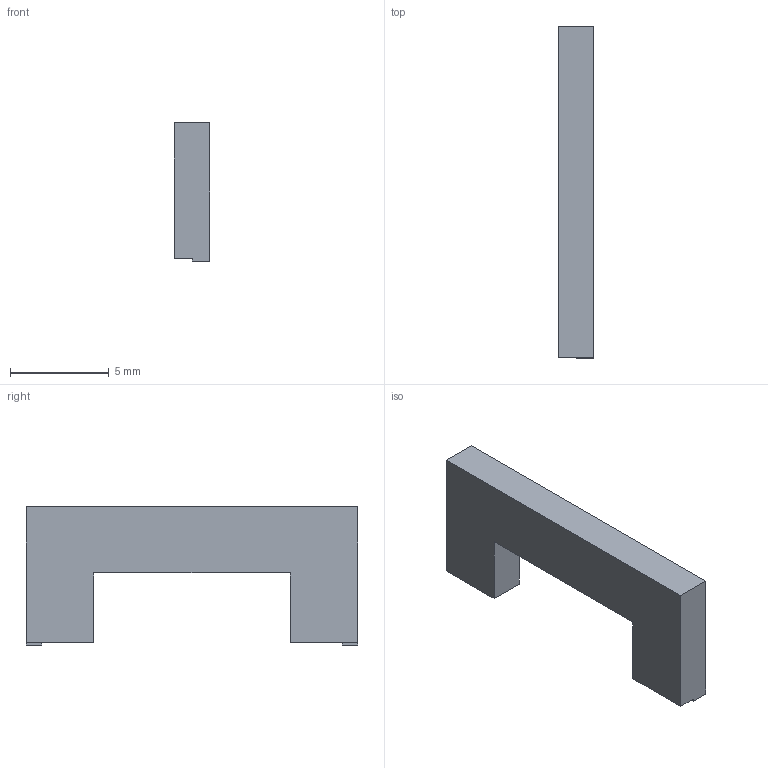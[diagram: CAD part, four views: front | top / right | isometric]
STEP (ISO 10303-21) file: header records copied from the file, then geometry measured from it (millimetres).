
FILE_DESCRIPTION(('Open CASCADE Model'),'2;1');
FILE_NAME('Open CASCADE Shape Model','2026-09-21T11:06:42',('Author'),( 'Open CASCADE'),'Open CASCADE STEP processor 7.7','Open CASCADE 7.7' ,'Unknown');
FILE_SCHEMA(('AUTOMOTIVE_DESIGN { 1 0 10303 214 1 1 1 1 }'));
Length unit declared in the file: millimetre
Products named in the file (1): Open CASCADE STEP translator 7.7 10
Bounding box: 1.8 x 16.8 x 7.01 mm (x, y, z)
Volume: 144.9 mm3; surface area: 259.3 mm2
Topology: 1 solids, 1 shells, 19 faces, 51 edges, 34 vertices
Faces by surface type: plane 16, bspline 3
Entity records: 1583 total; most frequent: CARTESIAN_POINT 625, DIRECTION 145, LINE 111, VECTOR 111, ORIENTED_EDGE 102, PCURVE 102, DEFINITIONAL_REPRESENTATION 102, EDGE_CURVE 51
